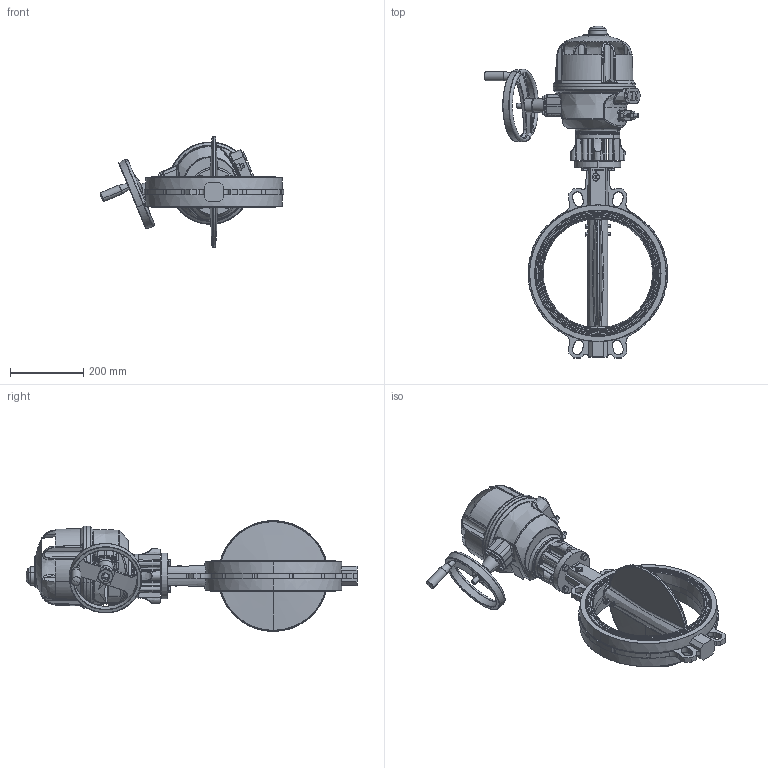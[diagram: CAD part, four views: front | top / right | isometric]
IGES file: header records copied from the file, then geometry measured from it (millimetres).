
Start section: SolidWorks IGES file using analytic representation for surfaces
Global section: file name: H:\BE FABRICATION\BE SERIE\VP\VP SERIE\F072 VPG\plan 3D\VPG-BX4\WAFER\DN300\VPG444X-BX4XX0300.igs; native system: SolidWorks 2020; preprocessor: SolidWorks 2020; author: k.gigout; date: 220920.115533; units: millimetre
Bounding box: 499.18 x 904.19 x 301.52 mm (x, y, z)
Surface area: 930497.7 mm2 (no closed solid volume)
Topology: 0 solids, 0 shells, 1048 faces, 21978 edges, 22005 vertices
Faces by surface type: bspline 653, revolution 395
